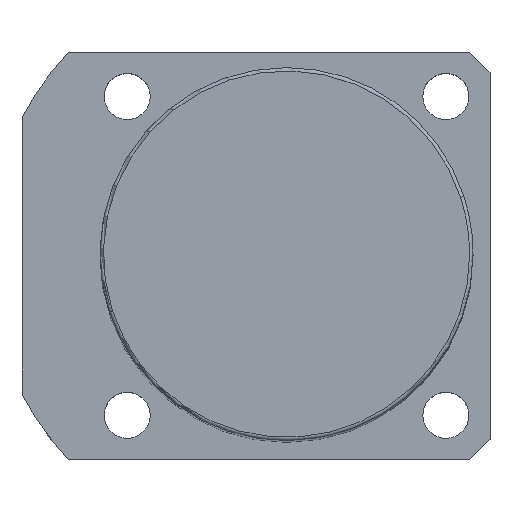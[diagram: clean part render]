
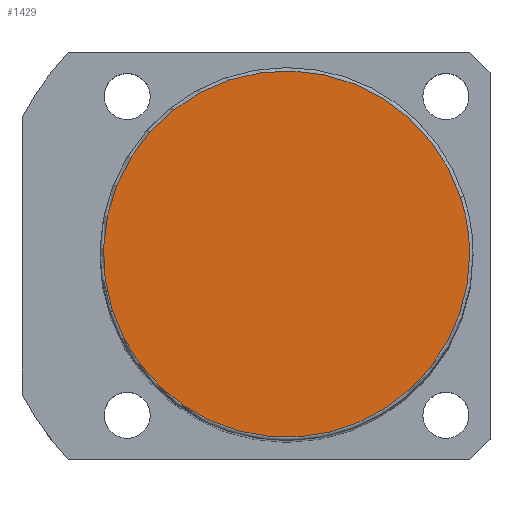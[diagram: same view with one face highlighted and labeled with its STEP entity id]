
A CAD part, top view. The second image highlights one B-rep face of the part: STEP entity #1429.
In plain terms, the highlighted planar face has unit normal (0, 0, 1).
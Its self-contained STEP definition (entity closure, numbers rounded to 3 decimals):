
#1362=CARTESIAN_POINT('',(25.679,8.343,161.0));
#1363=VERTEX_POINT('',#1362);
#1381=CARTESIAN_POINT('',(-25.679,-8.343,161.0));
#1382=VERTEX_POINT('',#1381);
#1390=CARTESIAN_POINT('',(0.0,0.0,161.0));
#1391=DIRECTION('',(0.0,0.0,1.0));
#1392=DIRECTION('',(1.0,0.0,0.0));
#1393=AXIS2_PLACEMENT_3D('',#1390,#1391,#1392);
#1394=CIRCLE('',#1393,27.0);
#1395=EDGE_CURVE('no 1894',#1363,#1382,#1394,.T.);
#1405=CARTESIAN_POINT('',(27.0,0.0,161.0));
#1406=VERTEX_POINT('',#1405);
#1407=CARTESIAN_POINT('',(0.0,0.0,161.0));
#1408=DIRECTION('',(0.0,0.0,1.0));
#1409=DIRECTION('',(1.0,0.0,0.0));
#1410=AXIS2_PLACEMENT_3D('',#1407,#1408,#1409);
#1411=CIRCLE('',#1410,27.0);
#1412=EDGE_CURVE('no 1903',#1406,#1363,#1411,.T.);
#1413=ORIENTED_EDGE('',*,*,#1412,.T.);
#1414=ORIENTED_EDGE('',*,*,#1395,.T.);
#1415=CARTESIAN_POINT('',(0.0,0.0,161.0));
#1416=DIRECTION('',(0.0,0.0,1.0));
#1417=DIRECTION('',(1.0,0.0,0.0));
#1418=AXIS2_PLACEMENT_3D('',#1415,#1416,#1417);
#1419=CIRCLE('',#1418,27.0);
#1420=EDGE_CURVE('no 1909',#1382,#1406,#1419,.T.);
#1421=ORIENTED_EDGE('',*,*,#1420,.T.);
#1422=EDGE_LOOP('',(#1413,#1414,#1421));
#1423=FACE_OUTER_BOUND('',#1422,.T.);
#1424=CARTESIAN_POINT('',(0.0,0.0,161.0));
#1425=DIRECTION('',(0.0,0.0,1.0));
#1426=DIRECTION('',(1.0,0.0,0.0));
#1427=AXIS2_PLACEMENT_3D('',#1424,#1425,#1426);
#1428=PLANE('',#1427);
#1429=ADVANCED_FACE('no 1896',(#1423),#1428,.T.);
